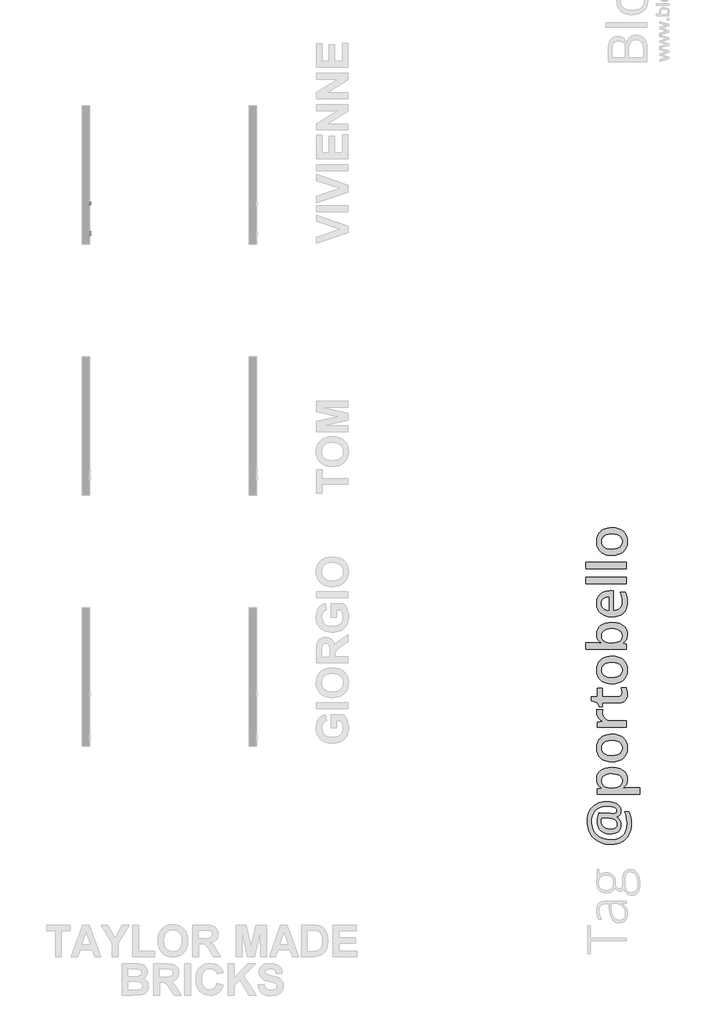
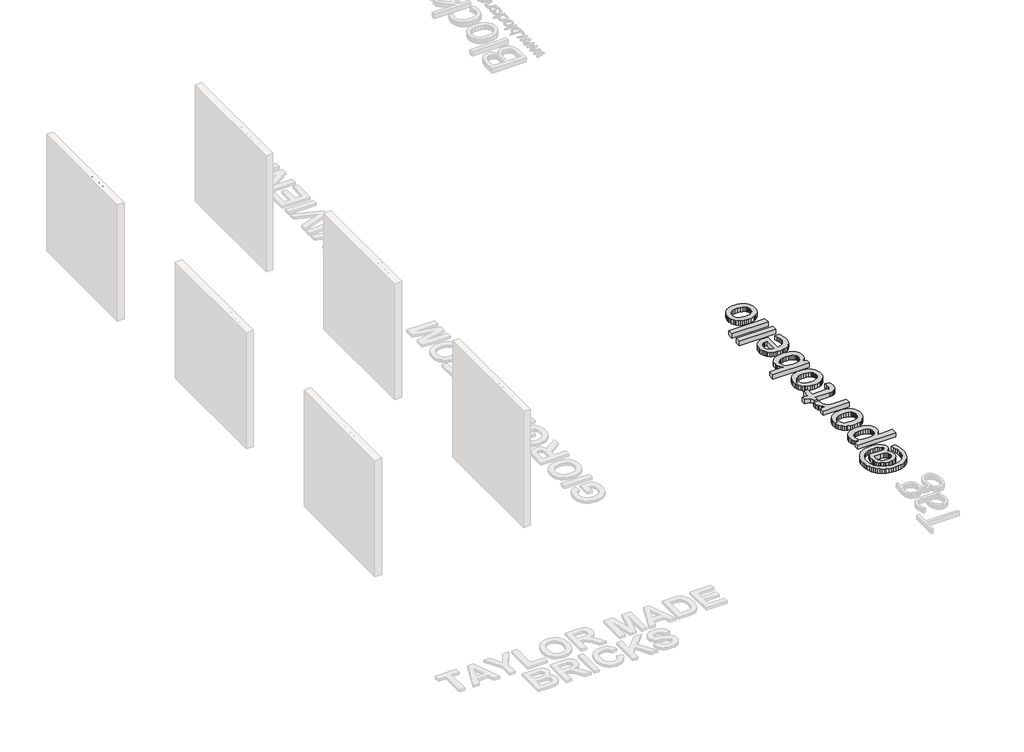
# One storey, part 5 of 6: 3 proxies.
"""IFC4 building model written with IfcOpenShell, lengths in millimetres."""

import ifcopenshell
import ifcopenshell.guid

model = None  # the IFC model being written
_history = None  # IfcOwnerHistory: only IFC2X3 demands one
_inside = {}  # id of a spatial element -> (the spatial element, [elements in it])
_under = {}  # id of a project, library or spatial element -> (it, [spatial elements below it])
_declared = {}  # id of a project -> (the project, [libraries it declares])
_typed = {}  # id of a type object -> (the type object, [elements of that type])
_made_of = {}  # id of a material, layer set ... -> (it, [elements and type objects made of it])


def new_model(schema):
    """Start an empty IFC model of exactly this schema.

    Asked for "IFC4X3", IfcOpenShell would pick the latest addendum, in which some entities
    have other attributes; the version numbers below select the first issue.
    IFC2X3 requires an IfcOwnerHistory on every rooted entity: one is made here for all.
    """
    global model, _history
    if schema == "IFC4X3":
        model = ifcopenshell.file(schema_version=(4, 3, 0, 0))
    else:
        model = ifcopenshell.file(schema=schema)
    _inside.clear()
    _under.clear()
    _declared.clear()
    _typed.clear()
    _made_of.clear()
    _history = None
    if model.schema == "IFC2X3":
        org = make("IfcOrganization", Name="unknown")
        user = make(
            "IfcPersonAndOrganization",
            ThePerson=make("IfcPerson", FamilyName="unknown"),
            TheOrganization=org,
        )
        app = make(
            "IfcApplication",
            ApplicationDeveloper=org,
            Version="unknown",
            ApplicationFullName="unknown",
            ApplicationIdentifier="unknown",
        )
        _history = make(
            "IfcOwnerHistory",
            OwningUser=user,
            OwningApplication=app,
            ChangeAction="ADDED",
            CreationDate=0,
        )
    return model


def make(cls, **values):
    """One entity of the class cls with the attributes given. An attribute that is None is left unset."""
    return model.create_entity(
        cls, **{name: value for name, value in values.items() if value is not None}
    )


def rooted(cls, **values):
    """An entity with a GlobalId (a new one), such as an element, a storey or a relation."""
    return make(cls, GlobalId=ifcopenshell.guid.new(), OwnerHistory=_history, **values)


def si_unit(unit_type, name, prefix=None):
    """IfcSIUnit, for example si_unit("LENGTHUNIT", "METRE", prefix="MILLI")."""
    return make("IfcSIUnit", UnitType=unit_type, Prefix=prefix, Name=name)


def assignment(units):
    """IfcUnitAssignment: the units of a project."""
    return None if units is None else make("IfcUnitAssignment", Units=units)


def point(xyz):
    """IfcCartesianPoint."""
    return None if xyz is None else make("IfcCartesianPoint", Coordinates=xyz)


def direction(xyz):
    """IfcDirection."""
    return None if xyz is None else make("IfcDirection", DirectionRatios=xyz)


def frame(location, z_axis=None, x_axis=None):
    """IfcAxis2Placement3D, a coordinate frame: its origin and axes. An axis left out is left unset."""
    return make(
        "IfcAxis2Placement3D",
        Location=point(location),
        Axis=direction(z_axis),
        RefDirection=direction(x_axis),
    )


def origin():
    """The frame at (0, 0, 0) with its axes left unset."""
    return frame((0.0, 0.0, 0.0))


def origin_with_axes():
    """The frame at (0, 0, 0) with the z axis (0, 0, 1) and the x axis (1, 0, 0) written out."""
    return frame((0.0, 0.0, 0.0), z_axis=(0.0, 0.0, 1.0), x_axis=(1.0, 0.0, 0.0))


def place(relative_to, where):
    """IfcLocalPlacement: puts the frame where relative to a parent placement (None: the world)."""
    return make(
        "IfcLocalPlacement", PlacementRelTo=relative_to, RelativePlacement=where
    )


def context(
    kind, dimensions, precision=None, world=None, true_north=None, identifier=None
):
    """IfcGeometricRepresentationContext, for example the 3D "Model" context."""
    return make(
        "IfcGeometricRepresentationContext",
        ContextIdentifier=identifier,
        ContextType=kind,
        CoordinateSpaceDimension=dimensions,
        Precision=precision,
        WorldCoordinateSystem=world,
        TrueNorth=true_north,
    )


def project(units=None, contexts=None):
    """IfcProject with its units and contexts."""
    return rooted(
        "IfcProject",
        Name="project",
        RepresentationContexts=contexts,
        UnitsInContext=assignment(units),
    )


def spatial(cls, under=None, at=None, **own):
    """A site, building, storey or space (cls), placed at a placement, below another one or the project."""
    s = rooted(cls, ObjectPlacement=at, **own)
    if under is not None:
        _under.setdefault(under.id(), (under, []))[1].append(s)
    return s


def polyline(points):
    """IfcPolyline through the points."""
    return make("IfcPolyline", Points=[point(p) for p in points])


def outline(outer, holes=None, kind="AREA"):
    """IfcArbitraryClosedProfileDef: a profile drawn as a closed curve; with holes, ...WithVoids."""
    if holes is None:
        return make("IfcArbitraryClosedProfileDef", ProfileType=kind, OuterCurve=outer)
    return make(
        "IfcArbitraryProfileDefWithVoids",
        ProfileType=kind,
        OuterCurve=outer,
        InnerCurves=holes,
    )


def extrude(swept, where, along, depth):
    """IfcExtrudedAreaSolid: the profile swept, set in the frame where, extruded along a direction by depth."""
    return make(
        "IfcExtrudedAreaSolid",
        SweptArea=swept,
        Position=where,
        ExtrudedDirection=direction(along),
        Depth=depth,
    )


def shape(context_of_items, identifier, shape_type, items):
    """IfcShapeRepresentation: the items that make up one representation, for example the "Body"."""
    return make(
        "IfcShapeRepresentation",
        ContextOfItems=context_of_items,
        RepresentationIdentifier=identifier,
        RepresentationType=shape_type,
        Items=items,
    )


def made_of(thing, what):
    """Note that an element or type object is made of a material, layer set ...; save() writes the relation."""
    if what is not None:
        _made_of.setdefault(what.id(), (what, []))[1].append(thing)
    return thing


def element(
    cls,
    number,
    at=None,
    inside=None,
    cuts=None,
    type_object=None,
    material=None,
    context=None,
    identifier="Body",
    shape_type=None,
    held_by="IfcProductDefinitionShape",
    body=None,
    shapes=None,
    **own,
):
    """One element of the class cls, such as IfcWall. Its Tag is "e" and its number.

    at: its placement. inside: the storey or other place that contains it. cuts: it is an
    opening in that element (IfcRelVoidsElement). A single representation is given by context,
    identifier, shape_type and body (its items); several are given by shapes. held_by: the class
    of the entity that holds the representations. save() writes the other relations.
    """
    e = rooted(cls, Tag="e%d" % number, ObjectPlacement=at, **own)
    if body is not None:
        shapes = [shape(context, identifier, shape_type, body)]
    if shapes is not None:
        e.Representation = make(held_by, Representations=shapes)
    if inside is not None:
        _inside.setdefault(inside.id(), (inside, []))[1].append(e)
    if cuts is not None:
        rooted(
            "IfcRelVoidsElement", RelatingBuildingElement=cuts, RelatedOpeningElement=e
        )
    if type_object is not None:
        _typed.setdefault(type_object.id(), (type_object, []))[1].append(e)
    return made_of(e, material)


def aggregate(whole, parts):
    """IfcRelAggregates: a whole, such as a stair, and the parts it consists of."""
    return rooted("IfcRelAggregates", RelatingObject=whole, RelatedObjects=parts)


def save(model, path):
    """Write the relations noted so far, then the file.

    IfcRelAggregates (storeys below a building ...), IfcRelContainedInSpatialStructure (elements
    in a storey), IfcRelDefinesByType, IfcRelAssociatesMaterial and IfcRelDeclares: one each for
    every whole, place, type object, material and project.
    """
    for whole, parts in _under.values():
        aggregate(whole, parts)
    for where, things in _inside.values():
        rooted(
            "IfcRelContainedInSpatialStructure",
            RelatedElements=things,
            RelatingStructure=where,
        )
    for kind, things in _typed.values():
        rooted("IfcRelDefinesByType", RelatedObjects=things, RelatingType=kind)
    for what, things in _made_of.values():
        rooted("IfcRelAssociatesMaterial", RelatedObjects=things, RelatingMaterial=what)
    for by, libraries in _declared.values():
        rooted("IfcRelDeclares", RelatingContext=by, RelatedDefinitions=libraries)
    model.write(path)


model = new_model("IFC4")

# Units and contexts
model_context = context("Model", 3, world=origin())
ifc_project = project(units=[si_unit("LENGTHUNIT", "METRE", prefix="MILLI")], contexts=[model_context])

# Site, building, storey
site = spatial("IfcSite", under=ifc_project)
building = spatial("IfcBuilding", under=site)
storey = spatial("IfcBuildingStorey", under=building, Name="PORTOBELLO - SHOWROOM", Elevation=0.0)

# Proxies
placement = place(None, origin())
element("IfcBuildingElementProxy", 1, Name="10mm Arial", ObjectType="10mm Arial", at=placement, inside=storey, context=model_context, shape_type="SweptSolid", body=[
    extrude(outline(polyline([(1674.1140682, 2552.8620929), (1634.1375581, 2653.318403), (1647.5775136, 2653.318403), (1674.3347974, 2580.9437518), (1679.7549255, 2564.6343167), (1685.1014772, 2580.9437518), (1711.9323373, 2653.318403), (1725.3722929, 2653.318403), (1687.0880399, 2552.8620929), (1674.1140682, 2552.8620929)])), frame((-13204.6123775, 0.0, 0.0), z_axis=(1.0, 0.0, 0.0), x_axis=(0.0, 1.0, 0.0)), (0.0, 0.0, 1.0), 20.0),
    extrude(outline(polyline([(-13184.6123775, 1748.0338238), (-13184.6123775, 1735.476785), (-13204.6123775, 1735.476785), (-13204.6123775, 1748.0338238), (-13184.6123775, 1748.0338238)])), frame((0.0, 0.0, 2552.8620929), z_axis=(0.0, 0.0, 1.0), x_axis=(1.0, 0.0, 0.0)), (0.0, 0.0, 1.0), 73.7726028),
    extrude(outline(polyline([(-13184.6123775, 1748.0338238), (-13184.6123775, 1735.476785), (-13204.6123775, 1735.476785), (-13204.6123775, 1748.0338238), (-13184.6123775, 1748.0338238)])), frame((0.0, 0.0, 2640.7613643), z_axis=(0.0, 0.0, 1.0), x_axis=(1.0, 0.0, 0.0)), (0.0, 0.0, 1.0), 12.5570388),
    extrude(outline(polyline([(1784.9691761, 2552.8620929), (1759.0212327, 2626.6346956), (1772.3140355, 2626.6346956), (1788.0348594, 2582.4398053), (1792.7682744, 2567.5773727), (1797.4035875, 2581.6059394), (1813.2225133, 2626.6346956), (1826.5153161, 2626.6346956), (1800.8862038, 2552.8620929), (1784.9691761, 2552.8620929)])), frame((-13204.6123775, 0.0, 0.0), z_axis=(1.0, 0.0, 0.0), x_axis=(0.0, 1.0, 0.0)), (0.0, 0.0, 1.0), 20.0),
    extrude(outline(polyline([(-13184.6123775, 1850.0597638), (-13184.6123775, 1837.502725), (-13204.6123775, 1837.502725), (-13204.6123775, 1850.0597638), (-13184.6123775, 1850.0597638)])), frame((0.0, 0.0, 2640.7613643), z_axis=(0.0, 0.0, 1.0), x_axis=(1.0, 0.0, 0.0)), (0.0, 0.0, 1.0), 12.5570388),
    extrude(outline(polyline([(-13184.6123775, 1850.0597638), (-13184.6123775, 1837.502725), (-13204.6123775, 1837.502725), (-13204.6123775, 1850.0597638), (-13184.6123775, 1850.0597638)])), frame((0.0, 0.0, 2552.8620929), z_axis=(0.0, 0.0, 1.0), x_axis=(1.0, 0.0, 0.0)), (0.0, 0.0, 1.0), 73.7726028),
    extrude(outline(polyline([(1920.5459541, 2574.8369107), (1932.8577382, 2573.2672809), (1928.4216944, 2563.9905232), (1921.3430317, 2557.0559476), (1911.7811655, 2552.7333342), (1899.8955114, 2551.292463), (1885.1618375, 2553.7787322), (1873.8249407, 2561.2375396), (1866.5960595, 2573.1845074), (1864.1864324, 2589.1352576), (1866.6205849, 2605.6225024), (1873.9230425, 2617.9526806), (1885.1066552, 2625.6414143), (1899.1842729, 2628.2043255), (1912.8234979, 2625.6475456), (1923.722002, 2617.977206), (1930.8681097, 2605.6715533), (1933.2501456, 2589.208834), (1933.1765692, 2585.8243196), (1876.7434712, 2585.8243196), (1878.9170406, 2576.4249347), (1883.966221, 2569.5148845), (1891.2533502, 2565.2658475), (1900.1407661, 2563.8495018), (1912.4525502, 2566.4737267), (1920.5459541, 2574.8369107)]), holes=[polyline([(1876.7434712, 2598.3813584), (1920.6931069, 2598.3813584), (1915.6653863, 2609.7611748), (1908.3445346, 2614.1757587), (1899.1352219, 2615.6472867), (1883.6719154, 2610.9506599), (1878.806676, 2605.4600211), (1876.7434712, 2598.3813584)])]), frame((-13204.6123775, 0.0, 0.0), z_axis=(1.0, 0.0, 0.0), x_axis=(0.0, 1.0, 0.0)), (0.0, 0.0, 1.0), 20.0),
    extrude(outline(polyline([(1945.8071844, 2552.8620929), (1945.8071844, 2626.6346956), (1958.3642232, 2626.6346956), (1958.3642232, 2616.3339998), (1967.9659432, 2625.2367441), (1981.074805, 2628.2043255), (1992.932868, 2625.8130925), (2001.0262719, 2619.5345731), (2004.790931, 2610.3007351), (2005.4531186, 2598.1606292), (2005.4531186, 2552.8620929), (1992.8960798, 2552.8620929), (1992.8960798, 2596.468372), (1991.4490773, 2607.5784083), (1986.3355175, 2613.4522575), (1977.7148161, 2615.6472867), (1964.0909196, 2610.717668), (1959.7958973, 2603.5746259), (1958.3642232, 2592.0047372), (1958.3642232, 2552.8620929), (1945.8071844, 2552.8620929)])), frame((-13204.6123775, 0.0, 0.0), z_axis=(1.0, 0.0, 0.0), x_axis=(0.0, 1.0, 0.0)), (0.0, 0.0, 1.0), 20.0),
    extrude(outline(polyline([(2022.7190469, 2552.8620929), (2022.7190469, 2626.6346956), (2035.2760856, 2626.6346956), (2035.2760856, 2616.3339998), (2044.8778057, 2625.2367441), (2057.9866675, 2628.2043255), (2069.8447304, 2625.8130925), (2077.9381343, 2619.5345731), (2081.7027934, 2610.3007351), (2082.364981, 2598.1606292), (2082.364981, 2552.8620929), (2069.8079422, 2552.8620929), (2069.8079422, 2596.468372), (2068.3609397, 2607.5784083), (2063.24738, 2613.4522575), (2054.6266786, 2615.6472867), (2041.002782, 2610.717668), (2036.7077597, 2603.5746259), (2035.2760856, 2592.0047372), (2035.2760856, 2552.8620929), (2022.7190469, 2552.8620929)])), frame((-13204.6123775, 0.0, 0.0), z_axis=(1.0, 0.0, 0.0), x_axis=(0.0, 1.0, 0.0)), (0.0, 0.0, 1.0), 20.0),
    extrude(outline(polyline([(2151.2815414, 2574.8369107), (2163.5933255, 2573.2672809), (2159.1572818, 2563.9905232), (2152.0786191, 2557.0559476), (2142.5167529, 2552.7333342), (2130.6310988, 2551.292463), (2115.8974249, 2553.7787322), (2104.5605281, 2561.2375396), (2097.3316468, 2573.1845074), (2094.9220198, 2589.1352576), (2097.3561723, 2605.6225024), (2104.6586299, 2617.9526806), (2115.8422426, 2625.6414143), (2129.9198603, 2628.2043255), (2143.5590852, 2625.6475456), (2154.4575893, 2617.977206), (2161.6036971, 2605.6715533), (2163.985733, 2589.208834), (2163.9121566, 2585.8243196), (2107.4790585, 2585.8243196), (2109.652628, 2576.4249347), (2114.7018084, 2569.5148845), (2121.9889376, 2565.2658475), (2130.8763534, 2563.8495018), (2143.1881375, 2566.4737267), (2151.2815414, 2574.8369107)]), holes=[polyline([(2107.4790585, 2598.3813584), (2151.4286942, 2598.3813584), (2146.4009736, 2609.7611748), (2139.0801219, 2614.1757587), (2129.8708093, 2615.6472867), (2114.4075028, 2610.9506599), (2109.5422634, 2605.4600211), (2107.4790585, 2598.3813584)])]), frame((-13204.6123775, 0.0, 0.0), z_axis=(1.0, 0.0, 0.0), x_axis=(0.0, 1.0, 0.0)), (0.0, 0.0, 1.0), 20.0),
])
element("IfcBuildingElementProxy", 2, Name="10mm Arial Narrow", ObjectType="10mm Arial Narrow", at=placement, inside=storey, context=model_context, shape_type="SweptSolid", body=[
    extrude(outline(polyline([(2234.5067609, 2552.8620929), (2234.5067609, 2653.5806966), (2265.8036456, 2653.5806966), (2282.0993471, 2651.7023759), (2293.5723332, 2642.2219327), (2297.8620117, 2625.2028239), (2296.0757033, 2613.1269984), (2290.7167781, 2603.5006046), (2280.9729893, 2597.1993462), (2266.03209, 2595.0989267), (2244.2537226, 2595.0989267), (2244.2537226, 2552.8620929), (2234.5067609, 2552.8620929)]), holes=[polyline([(2244.2537226, 2606.470382), (2267.2250775, 2606.470382), (2283.0892729, 2611.0011962), (2288.11505, 2624.6697869), (2285.6402355, 2634.8355633), (2279.6626067, 2640.6355132), (2266.9966331, 2642.2092414), (2244.2537226, 2642.2092414), (2244.2537226, 2606.470382)])]), frame((-13204.6123775, 0.0, 0.0), z_axis=(1.0, 0.0, 0.0), x_axis=(0.0, 1.0, 0.0)), (0.0, 0.0, 1.0), 20.0),
    extrude(outline(polyline([(2305.9844797, 2589.4131991), (2307.9389486, 2606.0039746), (2313.8023552, 2617.9560594), (2322.6609219, 2625.180614), (2333.6008711, 2627.5887989), (2344.4139067, 2625.180614), (2353.2978561, 2617.9560594), (2359.2374108, 2606.194345), (2361.2172624, 2590.1746805), (2359.2723121, 2573.0127939), (2353.437461, 2560.8703387), (2344.5884128, 2553.6457841), (2333.6008711, 2551.2375993), (2322.7402429, 2553.6521298), (2313.865812, 2560.8957214), (2307.9548128, 2572.8541519), (2305.9844797, 2589.4131991)]), holes=[polyline([(2315.7314414, 2589.4385818), (2317.0354782, 2576.8868304), (2320.9475888, 2568.0155723), (2326.7887856, 2562.7423138), (2333.8800809, 2560.9845609), (2340.6001541, 2562.758178), (2346.2922274, 2568.0790291), (2350.1757824, 2576.9661514), (2351.4703008, 2589.4385818), (2350.1662639, 2601.9522591), (2346.2541533, 2610.8108258), (2340.4129566, 2616.0840844), (2333.3216612, 2617.8418372), (2326.5539955, 2616.0745659), (2320.8714407, 2610.7727518), (2317.0164412, 2601.9046665), (2315.7314414, 2589.4385818)])]), frame((-13204.6123775, 0.0, 0.0), z_axis=(1.0, 0.0, 0.0), x_axis=(0.0, 1.0, 0.0)), (0.0, 0.0, 1.0), 20.0),
    extrude(outline(polyline([(2432.6949812, 2560.9845609), (2434.3194748, 2551.2375993), (2426.9584882, 2551.2375993), (2418.6837238, 2553.3570558), (2414.3686627, 2559.1570056), (2413.2010579, 2573.8028308), (2413.2010579, 2616.2173436), (2405.0785899, 2616.2173436), (2405.0785899, 2619.4663308), (2403.4540963, 2614.59285), (2395.8900479, 2616.2173436), (2389.8108882, 2613.8948254), (2385.9400245, 2607.4095423), (2383.960173, 2592.0022358), (2383.960173, 2552.8620929), (2374.2132113, 2552.8620929), (2374.2132113, 2625.9643053), (2383.960173, 2625.9643053), (2383.960173, 2616.2681091), (2390.2043203, 2625.3551202), (2396.6007638, 2627.5887989), (2405.0785899, 2625.9643053), (2413.2010579, 2625.9643053), (2413.2010579, 2642.2092414), (2422.9480196, 2650.3317094), (2422.9480196, 2625.9643053), (2432.6949812, 2625.9643053), (2432.6949812, 2616.2173436), (2422.9480196, 2616.2173436), (2422.9480196, 2571.5691521), (2423.8110318, 2563.5735976), (2428.4306855, 2560.9845609), (2432.6949812, 2560.9845609)])), frame((-13204.6123775, 0.0, 0.0), z_axis=(1.0, 0.0, 0.0), x_axis=(0.0, 1.0, 0.0)), (0.0, 0.0, 1.0), 20.0),
    extrude(outline(polyline([(2439.1929557, 2589.4131991), (2441.1474245, 2606.0039746), (2447.0108312, 2617.9560594), (2455.8693979, 2625.180614), (2466.809347, 2627.5887989), (2477.6223826, 2625.180614), (2486.506332, 2617.9560594), (2492.4458868, 2606.194345), (2494.4257384, 2590.1746805), (2492.480788, 2573.0127939), (2486.6459369, 2560.8703387), (2477.7968887, 2553.6457841), (2466.809347, 2551.2375993), (2455.9487188, 2553.6521298), (2447.0742879, 2560.8957214), (2441.1632887, 2572.8541519), (2439.1929557, 2589.4131991)]), holes=[polyline([(2448.9399173, 2589.4385818), (2450.2439542, 2576.8868304), (2454.1560648, 2568.0155723), (2459.9972615, 2562.7423138), (2467.0885568, 2560.9845609), (2473.80863, 2562.758178), (2479.5007033, 2568.0790291), (2483.3842584, 2576.9661514), (2484.6787767, 2589.4385818), (2483.3747398, 2601.9522591), (2479.4626293, 2610.8108258), (2473.6214325, 2616.0840844), (2466.5301372, 2617.8418372), (2459.7624714, 2616.0745659), (2454.0799166, 2610.7727518), (2450.2249171, 2601.9046665), (2448.9399173, 2589.4385818)])]), frame((-13204.6123775, 0.0, 0.0), z_axis=(1.0, 0.0, 0.0), x_axis=(0.0, 1.0, 0.0)), (0.0, 0.0, 1.0), 20.0),
    extrude(outline(polyline([(2517.1686489, 2552.8620929), (2507.4216872, 2552.8620929), (2507.4216872, 2653.5806966), (2517.1686489, 2653.5806966), (2517.1686489, 2618.1718125), (2524.5677096, 2625.2535893), (2533.768943, 2627.5887989), (2546.6506696, 2623.3879599), (2555.9280511, 2610.6585296), (2559.4054827, 2589.9716188), (2557.4732237, 2573.5172753), (2551.6764467, 2561.3145362), (2543.3033244, 2553.7568335), (2533.6420294, 2551.2375993), (2524.3011911, 2553.8520187), (2517.1686489, 2561.6191287), (2517.1686489, 2552.8620929)]), holes=[polyline([(2517.1686489, 2589.9716188), (2519.2500313, 2572.7240655), (2525.1388207, 2563.9924124), (2533.591264, 2560.9845609), (2539.5339916, 2562.7740422), (2544.7723489, 2568.1424859), (2549.6585211, 2589.5654954), (2544.9500279, 2611.0011962), (2539.7053249, 2616.131677), (2533.3882023, 2617.8418372), (2527.4105734, 2616.052356), (2522.1182779, 2610.6839123), (2517.1686489, 2589.9716188)])]), frame((-13204.6123775, 0.0, 0.0), z_axis=(1.0, 0.0, 0.0), x_axis=(0.0, 1.0, 0.0)), (0.0, 0.0, 1.0), 20.0),
    extrude(outline(polyline([(2611.3892782, 2575.6050034), (2621.1362399, 2573.9805098), (2617.4367095, 2564.0939432), (2611.6177226, 2556.9740923), (2603.9140693, 2552.6717225), (2594.5605397, 2551.2375993), (2582.9669857, 2553.6521298), (2573.8228635, 2560.8957214), (2567.8833087, 2572.7018556), (2565.9034572, 2588.804014), (2567.8928273, 2605.4709377), (2573.8609376, 2617.6514669), (2582.8749734, 2625.1044659), (2594.00212, 2627.5887989), (2604.6850692, 2625.1901325), (2613.4325866, 2617.9941335), (2619.2674376, 2606.2546289), (2621.212388, 2590.2254459), (2621.1362399, 2586.9764587), (2575.6504188, 2586.9764587), (2581.6534303, 2567.5333008), (2587.5834666, 2562.6217459), (2594.6874533, 2560.9845609), (2604.8659211, 2564.6396715), (2611.3892782, 2575.6050034)]), holes=[polyline([(2576.3103693, 2596.7234203), (2611.3892782, 2596.7234203), (2607.1249825, 2610.9885048), (2601.2996499, 2616.1285041), (2594.0782682, 2617.8418372), (2581.8691834, 2612.1307269), (2576.3103693, 2596.7234203)])]), frame((-13204.6123775, 0.0, 0.0), z_axis=(1.0, 0.0, 0.0), x_axis=(0.0, 1.0, 0.0)), (0.0, 0.0, 1.0), 20.0),
    extrude(outline(polyline([(-13184.6123775, 2643.8791504), (-13184.6123775, 2634.1321887), (-13204.6123775, 2634.1321887), (-13204.6123775, 2643.8791504), (-13184.6123775, 2643.8791504)])), frame((0.0, 0.0, 2552.8620929), z_axis=(0.0, 0.0, 1.0), x_axis=(1.0, 0.0, 0.0)), (0.0, 0.0, 1.0), 100.7186038),
    extrude(outline(polyline([(-13184.6123775, 2669.8710481), (-13184.6123775, 2660.1240865), (-13204.6123775, 2660.1240865), (-13204.6123775, 2669.8710481), (-13184.6123775, 2669.8710481)])), frame((0.0, 0.0, 2552.8620929), z_axis=(0.0, 0.0, 1.0), x_axis=(1.0, 0.0, 0.0)), (0.0, 0.0, 1.0), 100.7186038),
    extrude(outline(polyline([(2681.2425034, 2589.4131991), (2683.1969723, 2606.0039746), (2689.0603789, 2617.9560594), (2697.9189456, 2625.180614), (2708.8588947, 2627.5887989), (2719.6719303, 2625.180614), (2728.5558797, 2617.9560594), (2734.4954345, 2606.194345), (2736.4752861, 2590.1746805), (2734.5303357, 2573.0127939), (2728.6954847, 2560.8703387), (2719.8464365, 2553.6457841), (2708.8588947, 2551.2375993), (2697.9982666, 2553.6521298), (2689.1238357, 2560.8957214), (2683.2128365, 2572.8541519), (2681.2425034, 2589.4131991)]), holes=[polyline([(2690.989465, 2589.4385818), (2692.2935019, 2576.8868304), (2696.2056125, 2568.0155723), (2702.0468092, 2562.7423138), (2709.1381046, 2560.9845609), (2715.8581777, 2562.758178), (2721.5502511, 2568.0790291), (2725.4338061, 2576.9661514), (2726.7283244, 2589.4385818), (2725.4242876, 2601.9522591), (2721.512177, 2610.8108258), (2715.6709802, 2616.0840844), (2708.5796849, 2617.8418372), (2701.8120191, 2616.0745659), (2696.1294644, 2610.7727518), (2692.2744649, 2601.9046665), (2690.989465, 2589.4385818)])]), frame((-13204.6123775, 0.0, 0.0), z_axis=(1.0, 0.0, 0.0), x_axis=(0.0, 1.0, 0.0)), (0.0, 0.0, 1.0), 20.0),
])
element("IfcBuildingElementProxy", 3, Name="80mm OpenSans Bold", ObjectType="80mm OpenSans Bold", at=placement, inside=storey, context=model_context, shape_type="SweptSolid", body=[
    extrude(outline(polyline([(-3096.1910135, -9407.593007), (-3045.9844437, -9410.4473602), (-2996.7994319, -9419.0104197), (-2950.4988191, -9433.4023688), (-2908.9454462, -9453.7433907), (-2873.7016962, -9479.973394), (-2846.3299517, -9512.0322868), (-2836.0768147, -9530.3226814), (-2828.7531454, -9550.2205275), (-2822.89421, -9594.8385743), (-2828.7230996, -9634.709381), (-2836.0092116, -9651.918126), (-2846.2097684, -9667.3090987), (-2872.2895425, -9691.2556194), (-2903.897748, -9705.1668353), (-2903.897748, -9711.8970996), (-2872.7402299, -9736.5346743), (-2846.5703183, -9769.1043461), (-2836.2120209, -9788.3937643), (-2828.813237, -9809.7262984), (-2824.3739667, -9833.1019485), (-2822.89421, -9858.5207145), (-2826.4921972, -9900.0740874), (-2837.286159, -9936.5196703), (-2855.2760954, -9967.8574635), (-2880.4620063, -9994.0874667), (-2911.5669443, -10014.8040615), (-2947.3139619, -10029.6016292), (-2987.7030591, -10038.4801698), (-3032.7342359, -10041.4396833), (-3068.4512077, -10039.6294225), (-3102.0499489, -10034.19864), (-3133.5304597, -10025.1473359), (-3162.89274, -10012.4755102), (-3189.6861024, -9996.4460638), (-3213.4598596, -9977.3218976), (-3234.2140117, -9955.1030117), (-3251.9485585, -9929.7894061), (-3266.1452098, -9901.7641649), (-3276.2856749, -9871.4103725), (-3282.369954, -9838.7280288), (-3284.3980471, -9803.7171339), (-3282.2347478, -9755.3734051), (-3275.7448501, -9706.9695847), (-3257.2366233, -9630.4128284), (-3032.2535027, -9640.7485914), (-3005.092079, -9642.1907909), (-2989.4682512, -9642.4311575), (-2945.1807085, -9638.4050172), (-2929.662041, -9633.3723419), (-2918.5601095, -9626.3265965), (-2905.2197642, -9608.8399277), (-2900.7729825, -9588.5890431), (-2902.4330142, -9574.6177356), (-2907.4131093, -9561.7881693), (-2915.7132678, -9550.1003442), (-2927.3334898, -9539.5542605), (-2958.3407788, -9522.0075), (-2998.2416314, -9509.2680711), (-3044.9628857, -9501.5162489), (-3096.4313801, -9498.9323081), (-3143.2127261, -9501.3134396), (-3186.448665, -9508.4568339), (-3226.1391968, -9520.3624912), (-3262.2843215, -9537.0304113), (-3294.6136268, -9557.844655), (-3322.8567002, -9582.1892829), (-3347.0135416, -9610.0642949), (-3367.0841512, -9641.4696911), (-3382.8582081, -9675.7970436), (-3394.1253917, -9712.4379244), (-3400.8857018, -9751.3923336), (-3403.1391385, -9792.6602711), (-3401.3889693, -9834.9272322), (-3396.1384618, -9874.715413), (-3387.3876159, -9912.0248134), (-3375.1364317, -9946.8554334), (-3359.7229246, -9979.1171355), (-3341.4851103, -10008.7197824), (-3320.4229885, -10035.6633739), (-3296.5365594, -10059.9479101), (-3270.0661896, -10081.490765), (-3241.2522456, -10100.2093126), (-3210.0947275, -10116.1035528), (-3176.5936351, -10129.1734857), (-3141.0419154, -10139.3740425), (-3103.732515, -10146.6601545), (-3023.8406724, -10152.4890441), (-2974.6781949, -10150.2506303), (-2929.3465599, -10143.5353889), (-2887.8457672, -10132.34332), (-2850.175817, -10116.6744234), (-2816.5845872, -10096.6488826), (-2787.3199558, -10072.3868807), (-2762.381923, -10043.8884179), (-2741.7704886, -10011.153494), (-2725.6283703, -9974.377407), (-2714.0982859, -9933.7554547), (-2707.1802352, -9889.287637), (-2704.8742183, -9840.9739541), (-2708.2994421, -9778.2983679), (-2718.5751134, -9715.7429649), (-2733.6581164, -9656.1921443), (-2751.5053351, -9602.5303049), (-2668.0981313, -9602.5303049), (-2649.830271, -9653.4880202), (-2635.4082761, -9710.2145336), (-2626.0339794, -9772.16902), (-2622.9092139, -9838.8106548), (-2625.8687274, -9900.5473091), (-2634.747268, -9957.6418837), (-2649.5448357, -10010.0943788), (-2670.2614305, -10057.9047942), (-2696.5590368, -10100.7351145), (-2728.0996392, -10138.2473241), (-2764.8832377, -10170.4414232), (-2806.9098323, -10197.3174116), (-2853.7587814, -10218.5072281), (-2905.0094435, -10233.6428113), (-2960.6618186, -10242.7241612), (-3020.7159068, -10245.7512779), (-3069.7356666, -10243.7907879), (-3116.8024479, -10237.9093181), (-3161.9162507, -10228.1068685), (-3205.0770751, -10214.3834389), (-3245.9093482, -10196.9643732), (-3284.0374972, -10176.075015), (-3319.4615222, -10151.7153642), (-3352.1814231, -10123.8854209), (-3381.7990929, -10092.7879944), (-3407.9164243, -10058.6258939), (-3430.5334174, -10021.3991196), (-3449.6500721, -9981.1076713), (-3464.8457469, -9937.9919157), (-3475.6998004, -9892.2922193), (-3482.2122325, -9844.0085822), (-3484.3830432, -9793.1410043), (-3481.4385525, -9738.4876527), (-3472.6050806, -9687.0191584), (-3457.8826275, -9638.7355213), (-3437.2711931, -9593.6367414), (-3411.2289763, -9552.4739642), (-3380.2141757, -9515.9983354), (-3344.2267916, -9484.209855), (-3303.2668237, -9457.1085229), (-3257.7398909, -9435.4454847), (-3208.0516115, -9419.971886), (-3154.2019857, -9410.6877268), (-3096.1910135, -9407.593007)]), holes=[polyline([(-3030.0902035, -9943.1297513), (-2998.7073417, -9941.5072769), (-2971.861399, -9936.6398536), (-2949.5523757, -9928.5274815), (-2931.7802715, -9917.1701605), (-2918.2145826, -9903.018578), (-2908.5248047, -9886.5234213), (-2902.710938, -9867.6846905), (-2900.7729825, -9846.5023855), (-2903.5747554, -9820.0245042), (-2911.9800743, -9797.5577402), (-2925.9889392, -9779.1020936), (-2945.60135, -9764.6575643), (-2969.7957487, -9753.5180756), (-2997.5505775, -9744.9775504), (-3063.7415249, -9735.6933912), (-3197.1449779, -9729.4438601), (-3203.1541424, -9761.0520656), (-3205.5578082, -9799.8712686), (-3203.987914, -9824.5464005), (-3199.2782313, -9846.6526146), (-3191.4287601, -9866.1899108), (-3180.4395004, -9883.1582892), (-3151.5654648, -9910.2596213), (-3115.1799735, -9928.8279397), (-3073.8369214, -9939.5542984), (-3030.0902035, -9943.1297513)])]), origin_with_axes(), (0.0, 0.0, 1.0), 100.0),
    extrude(outline(polyline([(-3299.7815083, -8967.4817957), (-3295.079337, -8918.9202347), (-3280.9728233, -8875.391349), (-3257.461967, -8836.8951387), (-3224.5467682, -8803.4316036), (-3182.3474102, -8776.3528059), (-3130.9840762, -8757.0108075), (-3070.4567663, -8745.4056085), (-3000.7654805, -8741.5372088), (-2953.6611419, -8743.3324467), (-2910.4176916, -8748.7181604), (-2871.0351294, -8757.6943499), (-2835.5134555, -8770.2610153), (-2803.9803645, -8786.0500951), (-2776.5635513, -8804.6935282), (-2753.2630158, -8826.1913143), (-2734.078758, -8850.5434536), (-2719.0934039, -8877.3818848), (-2708.3895795, -8906.3385464), (-2701.9672849, -8937.4134386), (-2699.8265201, -8970.6065613), (-2702.6808732, -9011.2585594), (-2711.2439327, -9046.2018512), (-2724.404003, -9075.9772616), (-2741.0493888, -9101.1256152), (-2760.2486696, -9122.1576911), (-2781.0704247, -9139.5842683), (-2781.0704247, -9146.7952657), (-2734.920041, -9141.8677508), (-2688.7696573, -9139.5842683), (-2453.6911403, -9139.5842683), (-2453.6911403, -9261.9308584), (-3284.3980471, -9261.9308584), (-3284.3980471, -9162.4190936), (-3209.6440401, -9145.3530663), (-3209.6440401, -9139.5842683), (-3233.049736, -9121.7370496), (-3254.7127742, -9100.4045154), (-3273.3411843, -9074.8655661), (-3287.6429959, -9044.3991019), (-3296.7468802, -9008.7046645), (-3299.7815083, -8967.4817957)]), holes=[polyline([(-3200.2697434, -9000.1716508), (-3195.2220452, -9045.4206599), (-3188.9124224, -9064.3044594), (-3180.0789506, -9080.6944557), (-3168.7216296, -9094.808481), (-3154.8404595, -9106.8643673), (-3119.5065719, -9124.8017235), (-3073.9571047, -9135.4078989), (-3018.0718744, -9139.5842683), (-3000.7654805, -9139.5842683), (-2941.2146599, -9136.2792278), (-2891.3986858, -9126.3641063), (-2851.8583831, -9108.7272083), (-2836.1444178, -9096.5962074), (-2823.1345765, -9082.2568385), (-2812.9340197, -9065.4386892), (-2805.6479077, -9045.8713472), (-2801.2762405, -9023.5548124), (-2799.8190181, -8998.4890848), (-2801.3588665, -8977.2016193), (-2805.9784118, -8957.8070408), (-2813.6776538, -8940.305349), (-2824.4565927, -8924.6965441), (-2854.3521864, -8899.0975032), (-2894.7638179, -8880.9498262), (-2944.5197004, -8870.1333301), (-3002.4480466, -8866.5278313), (-3046.8107038, -8868.5784587), (-3085.9153421, -8874.7303409), (-3119.7619614, -8884.9834779), (-3148.3505618, -8899.3378697), (-3171.0652037, -8917.9437455), (-3187.289948, -8940.9513342), (-3197.0247946, -8968.360636), (-3200.2697434, -9000.1716508)])]), origin_with_axes(), (0.0, 0.0, 1.0), 100.0),
    extrude(outline(polyline([(-3000.7654805, -8092.5474378), (-2932.711692, -8097.2045404), (-2872.7702757, -8111.1758479), (-2821.2416897, -8134.0707648), (-2778.4263923, -8165.4986954), (-2744.5647501, -8204.8587232), (-2719.8971296, -8251.5499317), (-2704.8441725, -8305.1216336), (-2699.8265201, -8365.1231416), (-2704.8441725, -8421.7595175), (-2719.8971296, -8473.4082867), (-2744.5647501, -8519.2882581), (-2778.4263923, -8558.61824), (-2821.2416897, -8590.5869954), (-2872.7702757, -8614.383287), (-2932.711692, -8629.1658318), (-3000.7654805, -8634.0933467), (-3046.7881695, -8632.0352078), (-3089.1903368, -8625.8607913), (-3127.9719825, -8615.570097), (-3163.1331065, -8601.163125), (-3194.5009455, -8582.932822), (-3221.9027358, -8561.1721349), (-3245.3384775, -8535.8810637), (-3264.8081706, -8507.0596082), (-3280.1090059, -8475.0232497), (-3291.0381739, -8440.0874693), (-3297.5956747, -8402.2522671), (-3299.7815083, -8361.5176429), (-3297.5956747, -8323.0214325), (-3291.0381739, -8286.8537734), (-3280.1090059, -8253.0146656), (-3264.8081706, -8221.504109), (-3245.3234546, -8192.8178597), (-3221.8426441, -8167.4516739), (-3194.3657393, -8145.4055515), (-3162.89274, -8126.6794925), (-3127.6565013, -8111.7467186), (-3088.8898786, -8101.0804515), (-3046.5928716, -8094.6806912), (-3000.7654805, -8092.5474378)]), holes=[polyline([(-3000.7654805, -8508.621991), (-2941.9057138, -8504.8061715), (-2892.2399688, -8493.358713), (-2852.4592995, -8473.8589741), (-2836.5350135, -8460.9317589), (-2823.2547598, -8445.8863131), (-2812.7913021, -8428.624988), (-2805.3174037, -8409.0501345), (-2800.8330646, -8387.1617526), (-2799.3382849, -8362.9598424), (-2800.8330646, -8338.7579322), (-2805.3174037, -8316.8695503), (-2812.7913021, -8297.2946968), (-2823.2547598, -8280.0333717), (-2836.5350135, -8265.0029488), (-2852.4592995, -8252.1208023), (-2892.2399688, -8232.8013383), (-2941.9057138, -8221.5341548), (-3000.7654805, -8217.778427), (-3059.6252472, -8221.5341548), (-3108.810259, -8232.8013383), (-3147.8998744, -8252.1208023), (-3163.5011679, -8265.0029488), (-3176.4734518, -8280.0333717), (-3186.6740086, -8297.3247426), (-3193.9601207, -8316.9897336), (-3198.3317879, -8339.0283446), (-3199.7890103, -8363.4405756), (-3196.5741072, -8398.7369058), (-3186.9293981, -8428.9104233), (-3170.854883, -8453.961128), (-3148.3505618, -8473.8890199), (-3119.837076, -8489.0846948), (-3085.7350672, -8499.9387482), (-3046.0445354, -8506.4511803), (-3000.7654805, -8508.621991)])]), origin_with_axes(), (0.0, 0.0, 1.0), 100.0),
    extrude(outline(polyline([(-3299.7815083, -7663.4930893), (-3298.2191255, -7631.8848838), (-3294.0127103, -7602.4399775), (-3180.0789506, -7613.7372068), (-3184.7660989, -7640.4178974), (-3186.3284817, -7668.7811541), (-3183.6844493, -7700.5095429), (-3175.7523521, -7730.7957322), (-3162.4420526, -7758.6782557), (-3143.6634134, -7783.195647), (-3119.4765261, -7803.5667148), (-3089.9414824, -7819.0102677), (-3055.1484196, -7828.7451143), (-3015.1874754, -7831.9900631), (-2715.2099813, -7831.9900631), (-2715.2099813, -7954.3366533), (-3284.3980471, -7954.3366533), (-3284.3980471, -7858.9111203), (-3188.0110478, -7842.3258261), (-3188.0110478, -7836.5570282), (-3217.2456333, -7817.4178391), (-3243.896278, -7794.1323265), (-3266.7311033, -7766.8807653), (-3284.5182304, -7735.8434304), (-3295.9656888, -7701.2907343), (-3299.7815083, -7663.4930893)])), origin_with_axes(), (0.0, 0.0, 1.0), 100.0),
    extrude(outline(polyline([(-2798.3768186, -7279.1469249), (-2802.7034171, -7232.0350749), (-2813.2795467, -7189.4901899), (-2720.9787793, -7189.4901899), (-2706.0760512, -7241.8901047), (-2701.3889028, -7274.7001432), (-2699.8265201, -7308.7120145), (-2703.9127519, -7355.0126273), (-2716.1714476, -7396.3256336), (-2725.8161567, -7414.7362114), (-2738.4053564, -7431.1487421), (-2753.9390468, -7445.5632256), (-2772.4172278, -7457.9796618), (-2794.2905867, -7467.9698979), (-2820.009811, -7475.1057808), (-2849.5749005, -7479.3873105), (-2882.9858554, -7480.8144871), (-3191.6165465, -7480.8144871), (-3191.6165465, -7559.1739928), (-3245.939394, -7559.1739928), (-3288.9650121, -7475.0456891), (-3407.465737, -7435.1448365), (-3407.465737, -7358.4678969), (-3284.3980471, -7358.4678969), (-3284.3980471, -7194.2975215), (-3191.6165465, -7194.2975215), (-3191.6165465, -7358.4678969), (-2884.4280549, -7358.4678969), (-2846.4801808, -7353.029603), (-2831.6751016, -7346.2317356), (-2819.6492611, -7336.7147213), (-2810.3425675, -7324.9592931), (-2803.6949292, -7311.4461844), (-2798.3768186, -7279.1469249)])), origin_with_axes(), (0.0, 0.0, 1.0), 100.0),
    extrude(outline(polyline([(-3000.7654805, -6569.5847754), (-2932.711692, -6574.2418779), (-2872.7702757, -6588.2131854), (-2821.2416897, -6611.1081024), (-2778.4263923, -6642.5360329), (-2744.5647501, -6681.8960607), (-2719.8971296, -6728.5872692), (-2704.8441725, -6782.1589712), (-2699.8265201, -6842.1604792), (-2704.8441725, -6898.796855), (-2719.8971296, -6950.4456243), (-2744.5647501, -6996.3255956), (-2778.4263923, -7035.6555775), (-2821.2416897, -7067.6243329), (-2872.7702757, -7091.4206245), (-2932.711692, -7106.2031693), (-3000.7654805, -7111.1306842), (-3046.7881695, -7109.0725454), (-3089.1903368, -7102.8981288), (-3127.9719825, -7092.6074345), (-3163.1331065, -7078.2004625), (-3194.5009455, -7059.9701596), (-3221.9027358, -7038.2094725), (-3245.3384775, -7012.9184012), (-3264.8081706, -6984.0969457), (-3280.1090059, -6952.0605872), (-3291.0381739, -6917.1248069), (-3297.5956747, -6879.2896046), (-3299.7815083, -6838.5549804), (-3297.5956747, -6800.0587701), (-3291.0381739, -6763.8911109), (-3280.1090059, -6730.0520031), (-3264.8081706, -6698.5414465), (-3245.3234546, -6669.8551973), (-3221.8426441, -6644.4890114), (-3194.3657393, -6622.442889), (-3162.89274, -6603.71683), (-3127.6565013, -6588.7840561), (-3088.8898786, -6578.117789), (-3046.5928716, -6571.7180288), (-3000.7654805, -6569.5847754)]), holes=[polyline([(-3000.7654805, -6985.6593285), (-2941.9057138, -6981.843509), (-2892.2399688, -6970.3960506), (-2852.4592995, -6950.8963116), (-2836.5350135, -6937.9690964), (-2823.2547598, -6922.9236506), (-2812.7913021, -6905.6623255), (-2805.3174037, -6886.087472), (-2800.8330646, -6864.1990901), (-2799.3382849, -6839.9971799), (-2800.8330646, -6815.7952697), (-2805.3174037, -6793.9068879), (-2812.7913021, -6774.3320343), (-2823.2547598, -6757.0707092), (-2836.5350135, -6742.0402864), (-2852.4592995, -6729.1581399), (-2892.2399688, -6709.8386759), (-2941.9057138, -6698.5714923), (-3000.7654805, -6694.8157645), (-3059.6252472, -6698.5714923), (-3108.810259, -6709.8386759), (-3147.8998744, -6729.1581399), (-3163.5011679, -6742.0402864), (-3176.4734518, -6757.0707092), (-3186.6740086, -6774.3620802), (-3193.9601207, -6794.0270711), (-3198.3317879, -6816.0656821), (-3199.7890103, -6840.4779131), (-3196.5741072, -6875.7742433), (-3186.9293981, -6905.9477608), (-3170.854883, -6930.9984655), (-3148.3505618, -6950.9263574), (-3119.837076, -6966.1220323), (-3085.7350672, -6976.9760857), (-3046.0445354, -6983.4885178), (-3000.7654805, -6985.6593285)])]), origin_with_axes(), (0.0, 0.0, 1.0), 100.0),
    extrude(outline(polyline([(-3515.1499656, -6309.5081338), (-3325.0199994, -6309.5081338), (-3260.4815722, -6311.3108832), (-3211.0862396, -6314.7961986), (-3211.0862396, -6309.5081338), (-3245.4586608, -6281.5955645), (-3274.062284, -6244.4889734), (-3285.3144447, -6222.1574157), (-3293.3517022, -6196.8663444), (-3298.1740568, -6168.6157596), (-3299.7815083, -6137.4056612), (-3295.0568027, -6088.8290773), (-3280.8826858, -6045.2551229), (-3257.2591577, -6006.683798), (-3224.1862183, -5973.1151025), (-3181.8591655, -5945.9311444), (-3130.4732972, -5926.5140315), (-3070.0286134, -5914.8637637), (-3000.5251139, -5910.9803411), (-2953.3306379, -5912.7605561), (-2910.0571417, -5918.1012011), (-2870.7046254, -5927.0022761), (-2835.2730889, -5939.4637811), (-2803.8451583, -5955.1477006), (-2776.5034597, -5973.716019), (-2753.2479929, -5995.1687364), (-2734.078758, -6019.5058528), (-2719.0934039, -6046.4043756), (-2708.3895795, -6075.5413122), (-2701.9672849, -6106.9166626), (-2699.8265201, -6140.5304268), (-2701.3288112, -6171.6428762), (-2705.8356846, -6199.6005143), (-2713.3471403, -6224.4033409), (-2723.8631782, -6246.0513562), (-2749.9429524, -6281.8659769), (-2780.1089584, -6309.0274007), (-2780.1089584, -6317.9209642), (-2715.2099813, -6340.0346897), (-2715.2099813, -6431.3739908), (-3515.1499656, -6431.3739908), (-3515.1499656, -6309.5081338)]), holes=[polyline([(-3200.7504766, -6169.6147832), (-3195.4924576, -6215.9754877), (-3188.9199339, -6235.1672569), (-3179.7184007, -6251.6999709), (-3167.9103923, -6265.8440419), (-3153.5184433, -6277.8698825), (-3116.9827228, -6295.5668721), (-3069.660552, -6305.7824518), (-3011.1012435, -6309.5081338), (-3000.0443808, -6309.5081338), (-2954.239524, -6307.615247), (-2914.1734194, -6301.9365865), (-2879.8460669, -6292.4721523), (-2851.2574666, -6279.2219445), (-2828.7531454, -6260.9540843), (-2812.6786302, -6236.4366929), (-2803.0339211, -6205.6697705), (-2799.8190181, -6168.6533169), (-2803.0865013, -6138.5474025), (-2812.888951, -6112.1671701), (-2829.2263671, -6089.5126198), (-2852.0987496, -6070.5837515), (-2881.0854571, -6055.6509776), (-2915.765848, -6044.9847105), (-2956.1399223, -6038.5849503), (-3002.20768, -6036.4516969), (-3048.5458501, -6038.5699274), (-3088.7696953, -6044.9246189), (-3122.8792155, -6055.5157714), (-3150.8744109, -6070.3433849), (-3172.6951896, -6089.2572303), (-3188.2814602, -6112.1070785), (-3197.6332225, -6138.8929295), (-3200.7504766, -6169.6147832)])]), origin_with_axes(), (0.0, 0.0, 1.0), 100.0),
    extrude(outline(polyline([(-3299.7815083, -5541.2965383), (-3297.8210184, -5504.317642), (-3291.9395486, -5470.0578926), (-3282.1370989, -5438.5172902), (-3268.4136694, -5409.6958347), (-3251.0922526, -5383.8188699), (-3230.4958411, -5361.1117394), (-3206.6244349, -5341.5744432), (-3179.4780341, -5325.2069812), (-3149.2744708, -5312.2722545), (-3116.2315773, -5303.033164), (-3080.3493535, -5297.4897098), (-3041.6277994, -5295.6418917), (-2976.7288223, -5295.6418917), (-2976.7288223, -5678.5458565), (-2935.7237858, -5675.0304953), (-2899.7213787, -5666.4073441), (-2868.7216011, -5652.6764031), (-2842.724453, -5633.8376723), (-2822.1655988, -5610.2967702), (-2807.4807029, -5582.4593154), (-2798.6697654, -5550.325308), (-2795.7327862, -5513.894748), (-2798.3768186, -5461.6751081), (-2806.3089158, -5415.1040828), (-2819.4088945, -5370.6362652), (-2837.5565714, -5324.7262481), (-2738.7659063, -5324.7262481), (-2721.2792375, -5367.962187), (-2709.2008167, -5412.0995006), (-2702.1700942, -5461.1042374), (-2699.8265201, -5518.9424462), (-2701.8996818, -5559.9549942), (-2708.1191671, -5598.3836015), (-2718.484976, -5634.228268), (-2732.9971083, -5667.4889937), (-2751.6255184, -5697.7150914), (-2774.3401604, -5724.4558736), (-2801.1410343, -5747.7113404), (-2832.0281401, -5767.4814918), (-2866.956409, -5783.2555487), (-2905.8807723, -5794.5227322), (-2948.8012301, -5801.2830424), (-2995.7177823, -5803.5364791), (-3042.4465481, -5801.4933631), (-3085.5247464, -5795.3640153), (-3124.9523773, -5785.1484356), (-3160.7294407, -5770.8466239), (-3192.6606388, -5752.8566876), (-3220.5506738, -5731.5767336), (-3244.3995456, -5707.0067621), (-3264.2072542, -5679.146773), (-3279.7709904, -5648.4023849), (-3290.8879448, -5615.1792164), (-3297.5581174, -5579.4772675), (-3299.7815083, -5541.2965383)]), holes=[polyline([(-3208.2018406, -5541.2965383), (-3205.9033352, -5568.6532599), (-3199.0078189, -5593.2758116), (-3187.5152917, -5615.1641935), (-3171.4257536, -5634.3184055), (-3150.9044567, -5650.2577144), (-3126.1166529, -5662.5013872), (-3097.0623424, -5671.0494237), (-3063.7415249, -5675.9018241), (-3063.7415249, -5414.8637162), (-3103.6423775, -5418.6494899), (-3138.7358985, -5429.0453446), (-3167.8503007, -5446.261601), (-3189.8137971, -5470.5085799), (-3203.6048297, -5502.0867396), (-3208.2018406, -5541.2965383)])]), origin_with_axes(), (0.0, 0.0, 1.0), 100.0),
    extrude(outline(polyline([(-2715.2099813, -5032.200118), (-2715.2099813, -5154.5467081), (-3515.1499656, -5154.5467081), (-3515.1499656, -5032.200118), (-2715.2099813, -5032.200118)])), origin_with_axes(), (0.0, 0.0, 1.0), 100.0),
    extrude(outline(polyline([(-2715.2099813, -4739.9143545), (-2715.2099813, -4862.2609446), (-3515.1499656, -4862.2609446), (-3515.1499656, -4739.9143545), (-2715.2099813, -4739.9143545)])), origin_with_axes(), (0.0, 0.0, 1.0), 100.0),
    extrude(outline(polyline([(-3000.7654805, -4062.0805937), (-2932.711692, -4066.7376962), (-2872.7702757, -4080.7090038), (-2821.2416897, -4103.6039207), (-2778.4263923, -4135.0318513), (-2744.5647501, -4174.3918791), (-2719.8971296, -4221.0830876), (-2704.8441725, -4274.6547895), (-2699.8265201, -4334.6562975), (-2704.8441725, -4391.2926733), (-2719.8971296, -4442.9414426), (-2744.5647501, -4488.8214139), (-2778.4263923, -4528.1513959), (-2821.2416897, -4560.1201513), (-2872.7702757, -4583.9164429), (-2932.711692, -4598.6989876), (-3000.7654805, -4603.6265026), (-3046.7881695, -4601.5683637), (-3089.1903368, -4595.3939471), (-3127.9719825, -4585.1032529), (-3163.1331065, -4570.6962809), (-3194.5009455, -4552.4659779), (-3221.9027358, -4530.7052908), (-3245.3384775, -4505.4142195), (-3264.8081706, -4476.5927641), (-3280.1090059, -4444.5564056), (-3291.0381739, -4409.6206252), (-3297.5956747, -4371.7854229), (-3299.7815083, -4331.0507988), (-3297.5956747, -4292.5545884), (-3291.0381739, -4256.3869293), (-3280.1090059, -4222.5478214), (-3264.8081706, -4191.0372649), (-3245.3234546, -4162.3510156), (-3221.8426441, -4136.9848298), (-3194.3657393, -4114.9387073), (-3162.89274, -4096.2126483), (-3127.6565013, -4081.2798744), (-3088.8898786, -4070.6136074), (-3046.5928716, -4064.2138471), (-3000.7654805, -4062.0805937)]), holes=[polyline([(-3000.7654805, -4478.1551469), (-2941.9057138, -4474.3393274), (-2892.2399688, -4462.8918689), (-2852.4592995, -4443.39213), (-2836.5350135, -4430.4649147), (-2823.2547598, -4415.419469), (-2812.7913021, -4398.1581438), (-2805.3174037, -4378.5832903), (-2800.8330646, -4356.6949085), (-2799.3382849, -4332.4929983), (-2800.8330646, -4308.2910881), (-2805.3174037, -4286.4027062), (-2812.7913021, -4266.8278527), (-2823.2547598, -4249.5665275), (-2836.5350135, -4234.5361047), (-2852.4592995, -4221.6539582), (-2892.2399688, -4202.3344942), (-2941.9057138, -4191.0673107), (-3000.7654805, -4187.3115828), (-3059.6252472, -4191.0673107), (-3108.810259, -4202.3344942), (-3147.8998744, -4221.6539582), (-3163.5011679, -4234.5361047), (-3176.4734518, -4249.5665275), (-3186.6740086, -4266.8578985), (-3193.9601207, -4286.5228895), (-3198.3317879, -4308.5615005), (-3199.7890103, -4332.9737314), (-3196.5741072, -4368.2700617), (-3186.9293981, -4398.4435792), (-3170.854883, -4423.4942839), (-3148.3505618, -4443.4221758), (-3119.837076, -4458.6178506), (-3085.7350672, -4469.4719041), (-3046.0445354, -4475.9843362), (-3000.7654805, -4478.1551469)])]), origin_with_axes(), (0.0, 0.0, 1.0), 100.0),
])

save(model, "model.ifc")
